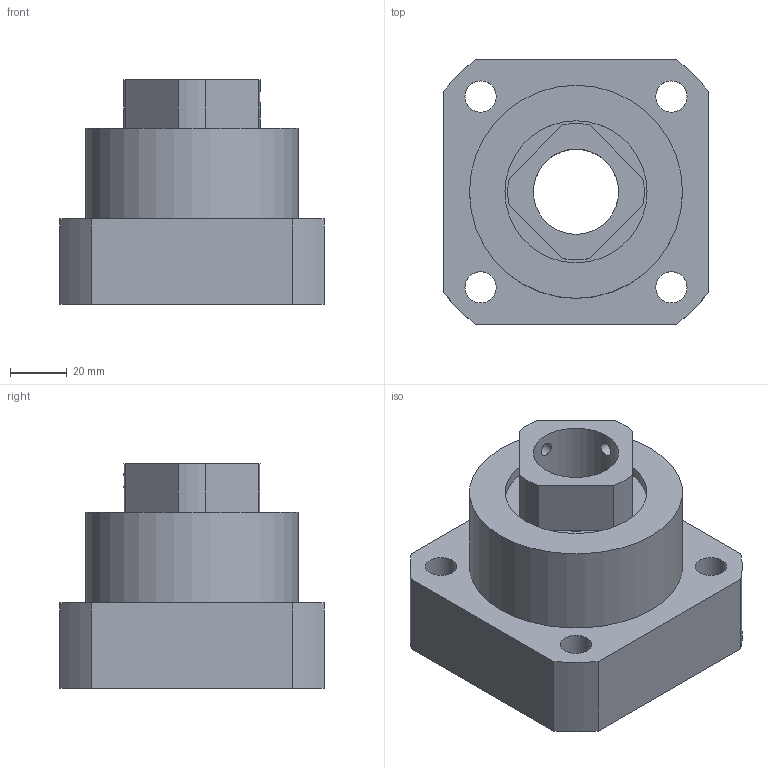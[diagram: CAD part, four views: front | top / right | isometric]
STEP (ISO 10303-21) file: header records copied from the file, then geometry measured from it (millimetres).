
FILE_DESCRIPTION(/* description */ (''),/* implementation_level */ '2;1');
FILE_NAME(/* name */ 'C:\Users\tenki620635\Desktop\官網\圖面\軸承座\3D\setp檔\FK30-Btype.stp',/* time_stamp */ '2020-12-18T19:57:05+08:00',/* author */ ('tenki620635'),/* organization */ (''),/* preprocessor_version */ 'ST-DEVELOPER v15.2',/* originating_system */ 'Autodesk Inventor 2014',/* authorisation */ '');
FILE_SCHEMA (('AUTOMOTIVE_DESIGN { 1 0 10303 214 3 1 1 }'));
Length unit declared in the file: millimetre
Products named in the file (1): FK30-Btype
Bounding box: 93 x 93 x 79 mm (x, y, z)
Volume: 330053.5 mm3; surface area: 50715.1 mm2
Topology: 1 solids, 1 shells, 46 faces, 106 edges, 72 vertices
Faces by surface type: cylinder 25, plane 21
Full cylindrical faces by diameter (mm): 4.917 x2, 11 x4, 17.5 x4, 30 x1, 37 x1, 37.5 x2, 50 x2, 75 x1
Entity records: 1375 total; most frequent: CARTESIAN_POINT 335, DIRECTION 218, ORIENTED_EDGE 168, AXIS2_PLACEMENT_3D 93, EDGE_LOOP 88, EDGE_CURVE 84, VERTEX_POINT 68, FACE_BOUND 54
